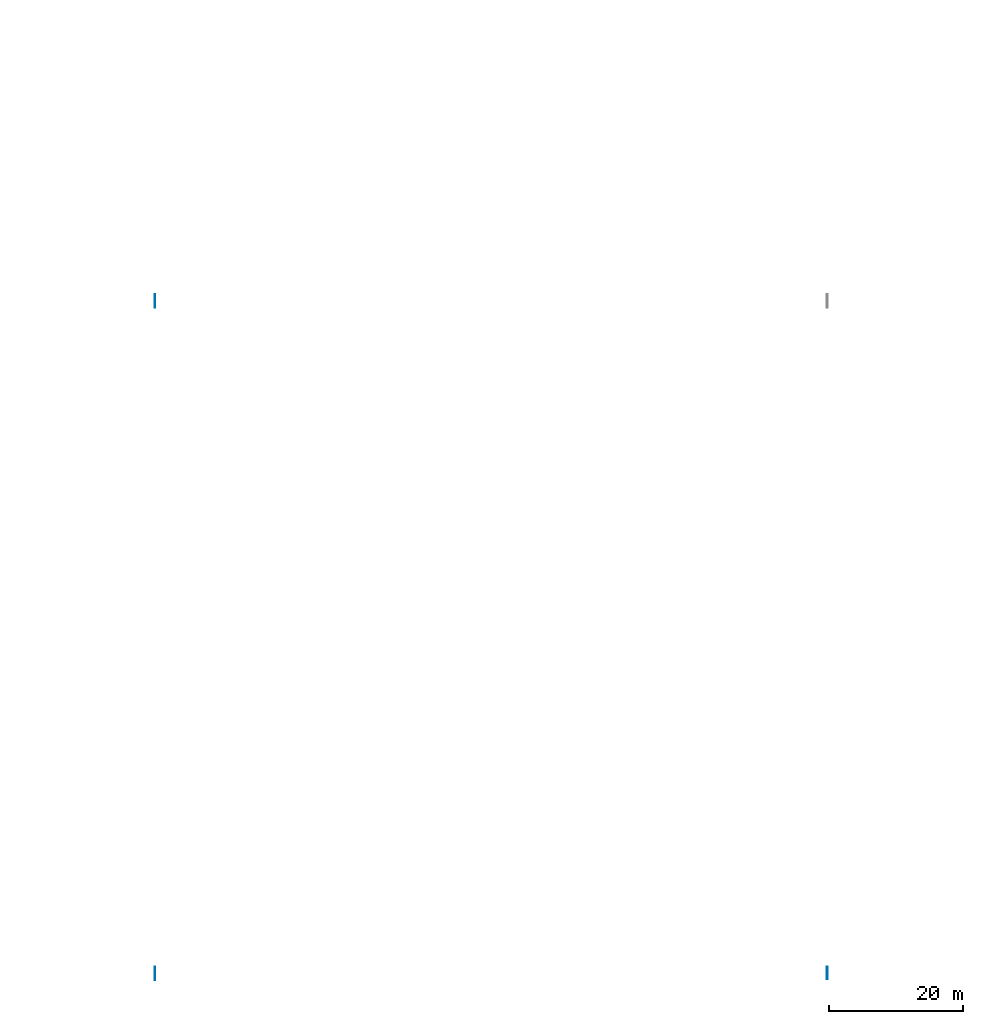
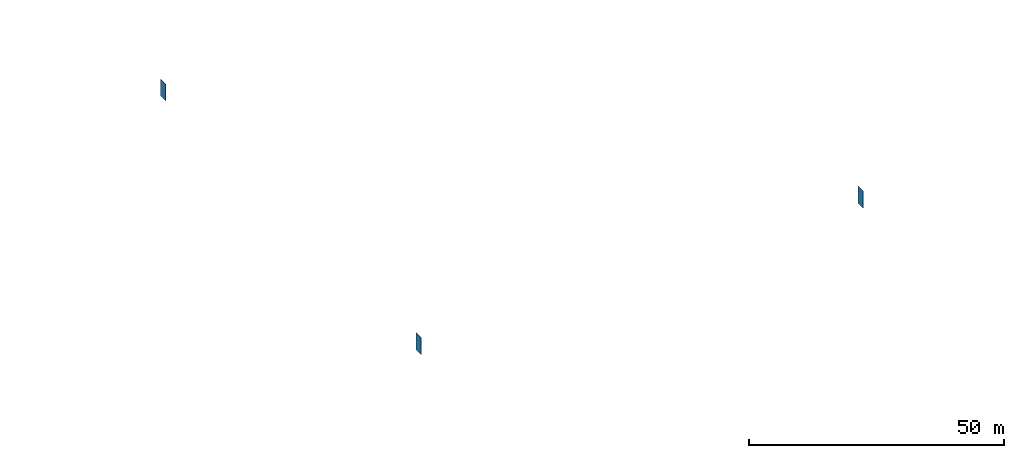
# One storey, part 5 of 164: 3 walls.
"""IFC2X3 building model written with IfcOpenShell, lengths in millimetres."""

from ifc_helpers import new_model, entity, si_unit, converted_unit, derived_unit, direction, frame, frame_2d, origin, place, context, subcontext, project, spatial, rectangle, extrude, material, layer, layer_set, layer_usage, type_object, element, save


model = new_model("IFC2X3")

# Units and contexts
model_context = context("Model", 3, precision=0.01, world=origin(), true_north=direction((6.12303176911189e-17, 1.0)))
body_context = subcontext(model_context, "Body", "Model", "MODEL_VIEW")
ifc_project = project(units=[si_unit("LENGTHUNIT", "METRE", prefix="MILLI"), si_unit("AREAUNIT", "SQUARE_METRE"), si_unit("VOLUMEUNIT", "CUBIC_METRE"), converted_unit("PLANEANGLEUNIT", "DEGREE", entity("IfcRatioMeasure", 0.0174532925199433), si_unit("PLANEANGLEUNIT", "RADIAN"), dimensions=[0, 0, 0, 0, 0, 0, 0]), si_unit("MASSUNIT", "GRAM", prefix="KILO"), derived_unit("MASSDENSITYUNIT", [(si_unit("MASSUNIT", "GRAM", prefix="KILO"), 1), (si_unit("LENGTHUNIT", "METRE"), -3)]), derived_unit("MOMENTOFINERTIAUNIT", [(si_unit("LENGTHUNIT", "METRE"), 4)]), si_unit("TIMEUNIT", "SECOND"), si_unit("FREQUENCYUNIT", "HERTZ"), si_unit("THERMODYNAMICTEMPERATUREUNIT", "DEGREE_CELSIUS"), derived_unit("THERMALTRANSMITTANCEUNIT", [(si_unit("MASSUNIT", "GRAM", prefix="KILO"), 1), (si_unit("THERMODYNAMICTEMPERATUREUNIT", "KELVIN"), -1), (si_unit("TIMEUNIT", "SECOND"), -3)]), derived_unit("VOLUMETRICFLOWRATEUNIT", [(si_unit("LENGTHUNIT", "METRE"), 3), (si_unit("TIMEUNIT", "SECOND"), -1)]), si_unit("ELECTRICCURRENTUNIT", "AMPERE"), si_unit("ELECTRICVOLTAGEUNIT", "VOLT"), si_unit("POWERUNIT", "WATT"), si_unit("FORCEUNIT", "NEWTON", prefix="KILO"), si_unit("ILLUMINANCEUNIT", "LUX"), si_unit("LUMINOUSFLUXUNIT", "LUMEN"), si_unit("LUMINOUSINTENSITYUNIT", "CANDELA"), derived_unit("USERDEFINED", [(si_unit("MASSUNIT", "GRAM", prefix="KILO"), -1), (si_unit("LENGTHUNIT", "METRE"), -2), (si_unit("TIMEUNIT", "SECOND"), 3), (si_unit("LUMINOUSFLUXUNIT", "LUMEN"), 1)]), derived_unit("LINEARVELOCITYUNIT", [(si_unit("LENGTHUNIT", "METRE"), 1), (si_unit("TIMEUNIT", "SECOND"), -1)]), si_unit("PRESSUREUNIT", "PASCAL"), derived_unit("USERDEFINED", [(si_unit("LENGTHUNIT", "METRE"), -2), (si_unit("MASSUNIT", "GRAM", prefix="KILO"), 1), (si_unit("TIMEUNIT", "SECOND"), -2)]), derived_unit("LINEARFORCEUNIT", [(si_unit("MASSUNIT", "GRAM", prefix="KILO"), 1), (si_unit("LENGTHUNIT", "METRE"), 1), (si_unit("TIMEUNIT", "SECOND"), -2), (si_unit("LENGTHUNIT", "METRE"), -1)]), derived_unit("PLANARFORCEUNIT", [(si_unit("MASSUNIT", "GRAM", prefix="KILO"), 1), (si_unit("LENGTHUNIT", "METRE"), 1), (si_unit("TIMEUNIT", "SECOND"), -2), (si_unit("LENGTHUNIT", "METRE"), -2)])], contexts=[model_context])

# Site, building, storey
site_placement = place(None, origin())
site = spatial("IfcSite", under=ifc_project, at=site_placement, Name="Default", CompositionType="ELEMENT")
building_placement = place(site_placement, origin())
building = spatial("IfcBuilding", under=site, at=building_placement, CompositionType="ELEMENT")
storey_placement = place(building_placement, origin())
storey = spatial("IfcBuildingStorey", under=building, at=storey_placement, Name="Level 1", CompositionType="ELEMENT", Elevation=0.0)

# Walls
ifc_material = material(Name="Default Wall")
ifc_layer = layer(ifc_material, 100.0)
ifc_layer_set = layer_set([ifc_layer], Name="Basic Wall:Generic - 100mm")
ifc_layer_usage_1 = layer_usage(ifc_layer_set, "AXIS2", "NEGATIVE", 50.0)
wall_type = type_object("IfcWallType", Name="Basic Wall:Generic - 100mm", PredefinedType="STANDARD", material=ifc_layer_set)
wall_1_placement = place(storey_placement, frame((300050.0, 1000.0, 0.0), z_axis=(0.0, 0.0, 1.0), x_axis=(0.0, -1.0, 0.0)))
element("IfcWallStandardCase", 1, at=wall_1_placement, inside=storey, type_object=wall_type, material=ifc_layer_usage_1, Name="Basic Wall:Generic - 100mm", ObjectType="Basic Wall:Generic - 100mm", context=body_context, shape_type="SweptSolid", body=[
    extrude(rectangle(XDim=2000.0, YDim=99.9999999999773, at=frame_2d((1000.0, 1.60937929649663e-12), x_axis=(-1.0, 0.0))), origin(), (0.0, 0.0, 1.0), 4000.0),
])
ifc_layer_usage_2 = layer_usage(ifc_layer_set, "AXIS2", "NEGATIVE", 50.0)
wall_2_placement = place(storey_placement, frame((400050.0, 1000.0, 0.0), z_axis=(0.0, 0.0, 1.0), x_axis=(0.0, -1.0, 0.0)))
element("IfcWallStandardCase", 2, at=wall_2_placement, inside=storey, type_object=wall_type, material=ifc_layer_usage_2, Name="Basic Wall:Generic - 100mm", ObjectType="Basic Wall:Generic - 100mm", context=body_context, shape_type="SweptSolid", body=[
    extrude(rectangle(XDim=2000.0, YDim=100.000000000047, at=frame_2d((1000.0, 1.60582658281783e-12), x_axis=(-1.0, 0.0))), origin(), (0.0, 0.0, 1.0), 4000.0),
])
ifc_layer_usage_3 = layer_usage(ifc_layer_set, "AXIS2", "NEGATIVE", 50.0)
wall_3_placement = place(storey_placement, frame((300050.0, 101000.0, 0.0), z_axis=(0.0, 0.0, 1.0), x_axis=(0.0, -1.0, 0.0)))
element("IfcWallStandardCase", 3, at=wall_3_placement, inside=storey, type_object=wall_type, material=ifc_layer_usage_3, Name="Basic Wall:Generic - 100mm", ObjectType="Basic Wall:Generic - 100mm", context=body_context, shape_type="SweptSolid", body=[
    extrude(rectangle(XDim=2000.0, YDim=99.9999999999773, at=frame_2d((999.999999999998, 1.60937929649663e-12), x_axis=(-1.0, 0.0))), origin(), (0.0, 0.0, 1.0), 4000.0),
])

save(model, "model.ifc")
